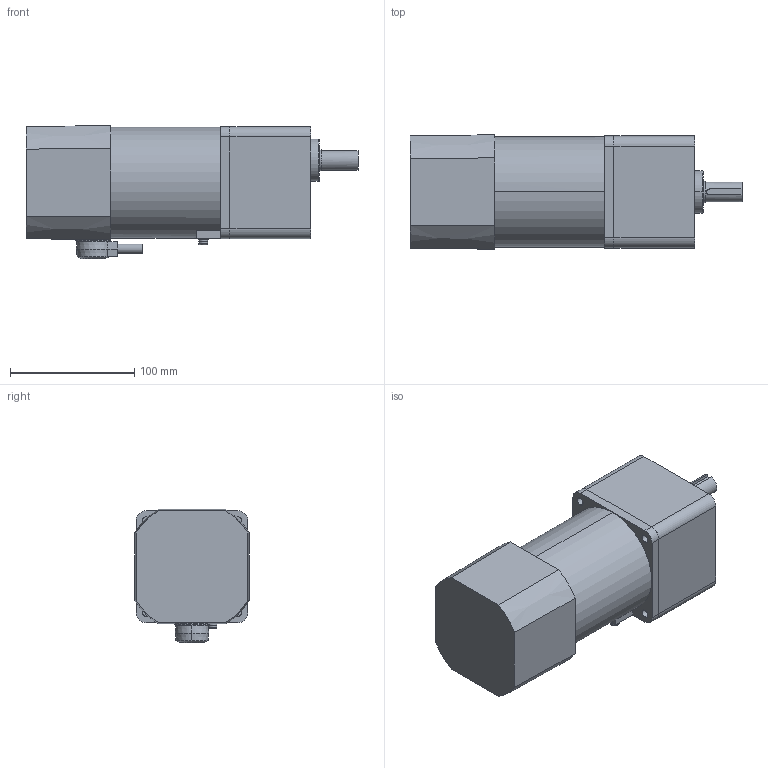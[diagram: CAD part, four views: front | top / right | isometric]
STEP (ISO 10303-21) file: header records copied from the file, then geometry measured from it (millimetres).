
FILE_DESCRIPTION(('starvars output'),'2;1');
FILE_NAME('5RK60GE-AW2MU _ 5GE18SA.stp','14:15:02 2015/05/11',( 'Thomas Industrial Network Germany GmbH'),( 'Thomas Industrial Network Germany GmbH'),'unknown preprocess','ACIS' ,'unknown authorization');
FILE_SCHEMA(('AUTOMOTIVE_DESIGN_CC2 {UNKNOWN IMPLEMENTATION LEVEL}'));
Length unit declared in the file: millimetre
Products named in the file (1): PRODUCT_ID_158
Bounding box: 267 x 92 x 107 mm (x, y, z)
Volume: 1663519.5 mm3; surface area: 102345.8 mm2
Topology: 1 solids, 1 shells, 128 faces, 302 edges, 196 vertices
Faces by surface type: cylinder 54, plane 54, cone 16, torus 4
Entity records: 4379 total; most frequent: ORIENTED_EDGE 600, CARTESIAN_POINT 591, DIRECTION 503, EDGE_CURVE 300, VERTEX_POINT 196, AXIS2_PLACEMENT_3D 182, EDGE_LOOP 150, FACE_BOUND 150
